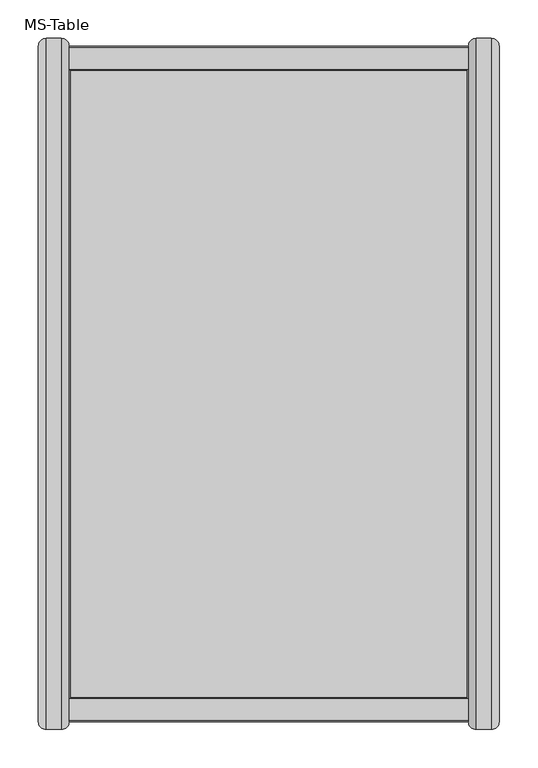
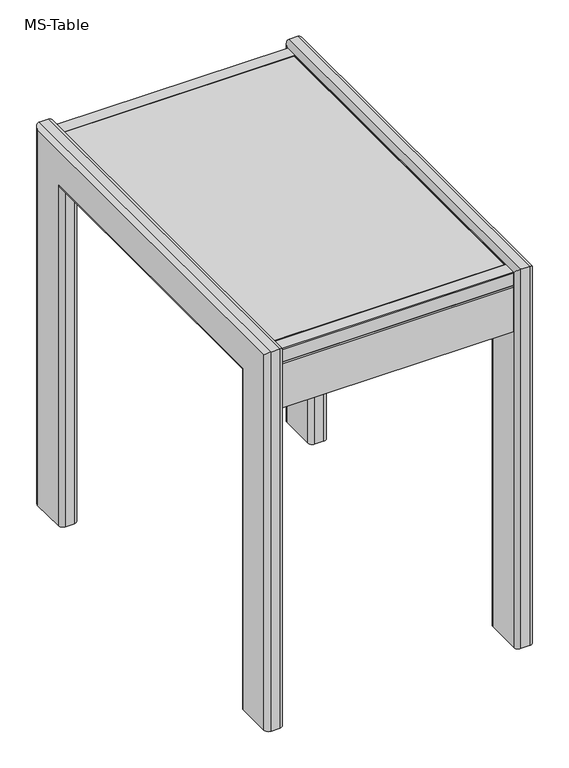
"""IFC4 building model written with IfcOpenShell, lengths in millimetres: furniture geometry, MS-Table : .Mesa nutricionista."""

import ifcopenshell
import ifcopenshell.guid

model = None  # the IFC model being written
_history = None  # IfcOwnerHistory: only IFC2X3 demands one
_inside = {}  # id of a spatial element -> (the spatial element, [elements in it])
_under = {}  # id of a project, library or spatial element -> (it, [spatial elements below it])
_declared = {}  # id of a project -> (the project, [libraries it declares])
_typed = {}  # id of a type object -> (the type object, [elements of that type])
_made_of = {}  # id of a material, layer set ... -> (it, [elements and type objects made of it])


def new_model(schema):
    """Start an empty IFC model of exactly this schema.

    Asked for "IFC4X3", IfcOpenShell would pick the latest addendum, in which some entities
    have other attributes; the version numbers below select the first issue.
    IFC2X3 requires an IfcOwnerHistory on every rooted entity: one is made here for all.
    """
    global model, _history
    if schema == "IFC4X3":
        model = ifcopenshell.file(schema_version=(4, 3, 0, 0))
    else:
        model = ifcopenshell.file(schema=schema)
    _inside.clear()
    _under.clear()
    _declared.clear()
    _typed.clear()
    _made_of.clear()
    _history = None
    if model.schema == "IFC2X3":
        org = make("IfcOrganization", Name="unknown")
        user = make(
            "IfcPersonAndOrganization",
            ThePerson=make("IfcPerson", FamilyName="unknown"),
            TheOrganization=org,
        )
        app = make(
            "IfcApplication",
            ApplicationDeveloper=org,
            Version="unknown",
            ApplicationFullName="unknown",
            ApplicationIdentifier="unknown",
        )
        _history = make(
            "IfcOwnerHistory",
            OwningUser=user,
            OwningApplication=app,
            ChangeAction="ADDED",
            CreationDate=0,
        )
    return model


def make(cls, **values):
    """One entity of the class cls with the attributes given. An attribute that is None is left unset."""
    return model.create_entity(
        cls, **{name: value for name, value in values.items() if value is not None}
    )


def rooted(cls, **values):
    """An entity with a GlobalId (a new one), such as an element, a storey or a relation."""
    return make(cls, GlobalId=ifcopenshell.guid.new(), OwnerHistory=_history, **values)


def si_unit(unit_type, name, prefix=None):
    """IfcSIUnit, for example si_unit("LENGTHUNIT", "METRE", prefix="MILLI")."""
    return make("IfcSIUnit", UnitType=unit_type, Prefix=prefix, Name=name)


def assignment(units):
    """IfcUnitAssignment: the units of a project."""
    return None if units is None else make("IfcUnitAssignment", Units=units)


def point(xyz):
    """IfcCartesianPoint."""
    return None if xyz is None else make("IfcCartesianPoint", Coordinates=xyz)


def direction(xyz):
    """IfcDirection."""
    return None if xyz is None else make("IfcDirection", DirectionRatios=xyz)


def frame(location, z_axis=None, x_axis=None):
    """IfcAxis2Placement3D, a coordinate frame: its origin and axes. An axis left out is left unset."""
    return make(
        "IfcAxis2Placement3D",
        Location=point(location),
        Axis=direction(z_axis),
        RefDirection=direction(x_axis),
    )


def origin():
    """The frame at (0, 0, 0) with its axes left unset."""
    return frame((0.0, 0.0, 0.0))


def place(relative_to, where):
    """IfcLocalPlacement: puts the frame where relative to a parent placement (None: the world)."""
    return make(
        "IfcLocalPlacement", PlacementRelTo=relative_to, RelativePlacement=where
    )


def context(
    kind, dimensions, precision=None, world=None, true_north=None, identifier=None
):
    """IfcGeometricRepresentationContext, for example the 3D "Model" context."""
    return make(
        "IfcGeometricRepresentationContext",
        ContextIdentifier=identifier,
        ContextType=kind,
        CoordinateSpaceDimension=dimensions,
        Precision=precision,
        WorldCoordinateSystem=world,
        TrueNorth=true_north,
    )


def project(units=None, contexts=None):
    """IfcProject with its units and contexts."""
    return rooted(
        "IfcProject",
        Name="project",
        RepresentationContexts=contexts,
        UnitsInContext=assignment(units),
    )


def spatial(cls, under=None, at=None, **own):
    """A site, building, storey or space (cls), placed at a placement, below another one or the project."""
    s = rooted(cls, ObjectPlacement=at, **own)
    if under is not None:
        _under.setdefault(under.id(), (under, []))[1].append(s)
    return s


def polyline(points):
    """IfcPolyline through the points."""
    return make("IfcPolyline", Points=[point(p) for p in points])


def circle_curve(where, radius):
    """IfcCircle in the frame where."""
    return make("IfcCircle", Position=where, Radius=radius)


def ellipse_curve(where, semi_axis1, semi_axis2):
    """IfcEllipse in the frame where."""
    return make(
        "IfcEllipse", Position=where, SemiAxis1=semi_axis1, SemiAxis2=semi_axis2
    )


def outline(outer, holes=None, kind="AREA"):
    """IfcArbitraryClosedProfileDef: a profile drawn as a closed curve; with holes, ...WithVoids."""
    if holes is None:
        return make("IfcArbitraryClosedProfileDef", ProfileType=kind, OuterCurve=outer)
    return make(
        "IfcArbitraryProfileDefWithVoids",
        ProfileType=kind,
        OuterCurve=outer,
        InnerCurves=holes,
    )


def extrude(swept, where, along, depth):
    """IfcExtrudedAreaSolid: the profile swept, set in the frame where, extruded along a direction by depth."""
    return make(
        "IfcExtrudedAreaSolid",
        SweptArea=swept,
        Position=where,
        ExtrudedDirection=direction(along),
        Depth=depth,
    )


def faces_of(points, faces, orient=None, outer=None):
    """IfcFace entities. A face is a list of loops; a loop is a list of indices into points, from 0.

    orient and outer hold one flag for each loop. By default every Orientation is true, the
    first loop of a face is its IfcFaceOuterBound and the others are IfcFaceBound.
    """
    made = []
    for i, loops in enumerate(faces):
        bounds = []
        for j, loop in enumerate(loops):
            is_outer = j == 0 if outer is None else outer[i][j]
            bounds.append(
                make(
                    "IfcFaceOuterBound" if is_outer else "IfcFaceBound",
                    Bound=make("IfcPolyLoop", Polygon=[points[k] for k in loop]),
                    Orientation=True if orient is None else orient[i][j],
                )
            )
        made.append(make("IfcFace", Bounds=bounds))
    return made


def faceted_brep(points, faces, orient=None, outer=None, voids=None):
    """IfcFacetedBrep: a solid bounded by flat faces; with voids (closed shells), ...WithVoids."""
    shared = [point(p) for p in points]
    hull = make("IfcClosedShell", CfsFaces=faces_of(shared, faces, orient, outer))
    if voids is None:
        return make("IfcFacetedBrep", Outer=hull)
    return make(
        "IfcFacetedBrepWithVoids",
        Outer=hull,
        Voids=[
            make(cls, CfsFaces=faces_of(shared, fs, o, b)) for cls, fs, o, b in voids
        ],
    )


def shape(context_of_items, identifier, shape_type, items):
    """IfcShapeRepresentation: the items that make up one representation, for example the "Body"."""
    return make(
        "IfcShapeRepresentation",
        ContextOfItems=context_of_items,
        RepresentationIdentifier=identifier,
        RepresentationType=shape_type,
        Items=items,
    )


def source(mapping_origin, context_of_items, identifier, shape_type, items):
    """IfcRepresentationMap: a shape defined once, which mapped items show again and again."""
    return make(
        "IfcRepresentationMap",
        MappingOrigin=mapping_origin,
        MappedRepresentation=shape(context_of_items, identifier, shape_type, items),
    )


def transform(
    local_origin,
    x_axis=None,
    y_axis=None,
    z_axis=None,
    scale=None,
    scale2=None,
    scale3=None,
    uniform=True,
):
    """IfcCartesianTransformationOperator3D, or its non-uniform kind. x_axis, y_axis, z_axis: its Axis1, 2, 3."""
    if uniform:
        return make(
            "IfcCartesianTransformationOperator3D",
            Axis1=direction(x_axis),
            Axis2=direction(y_axis),
            LocalOrigin=point(local_origin),
            Scale=scale,
            Axis3=direction(z_axis),
        )
    return make(
        "IfcCartesianTransformationOperator3DnonUniform",
        Axis1=direction(x_axis),
        Axis2=direction(y_axis),
        LocalOrigin=point(local_origin),
        Scale=scale,
        Axis3=direction(z_axis),
        Scale2=scale2,
        Scale3=scale3,
    )


def mapped(mapping_source, mapping_target):
    """IfcMappedItem: shows the shape of a source again, moved by a transform."""
    return make(
        "IfcMappedItem", MappingSource=mapping_source, MappingTarget=mapping_target
    )


def made_of(thing, what):
    """Note that an element or type object is made of a material, layer set ...; save() writes the relation."""
    if what is not None:
        _made_of.setdefault(what.id(), (what, []))[1].append(thing)
    return thing


def element(
    cls,
    number,
    at=None,
    inside=None,
    cuts=None,
    type_object=None,
    material=None,
    context=None,
    identifier="Body",
    shape_type=None,
    held_by="IfcProductDefinitionShape",
    body=None,
    shapes=None,
    **own,
):
    """One element of the class cls, such as IfcWall. Its Tag is "e" and its number.

    at: its placement. inside: the storey or other place that contains it. cuts: it is an
    opening in that element (IfcRelVoidsElement). A single representation is given by context,
    identifier, shape_type and body (its items); several are given by shapes. held_by: the class
    of the entity that holds the representations. save() writes the other relations.
    """
    e = rooted(cls, Tag="e%d" % number, ObjectPlacement=at, **own)
    if body is not None:
        shapes = [shape(context, identifier, shape_type, body)]
    if shapes is not None:
        e.Representation = make(held_by, Representations=shapes)
    if inside is not None:
        _inside.setdefault(inside.id(), (inside, []))[1].append(e)
    if cuts is not None:
        rooted(
            "IfcRelVoidsElement", RelatingBuildingElement=cuts, RelatedOpeningElement=e
        )
    if type_object is not None:
        _typed.setdefault(type_object.id(), (type_object, []))[1].append(e)
    return made_of(e, material)


def aggregate(whole, parts):
    """IfcRelAggregates: a whole, such as a stair, and the parts it consists of."""
    return rooted("IfcRelAggregates", RelatingObject=whole, RelatedObjects=parts)


def save(model, path):
    """Write the relations noted so far, then the file.

    IfcRelAggregates (storeys below a building ...), IfcRelContainedInSpatialStructure (elements
    in a storey), IfcRelDefinesByType, IfcRelAssociatesMaterial and IfcRelDeclares: one each for
    every whole, place, type object, material and project.
    """
    for whole, parts in _under.values():
        aggregate(whole, parts)
    for where, things in _inside.values():
        rooted(
            "IfcRelContainedInSpatialStructure",
            RelatedElements=things,
            RelatingStructure=where,
        )
    for kind, things in _typed.values():
        rooted("IfcRelDefinesByType", RelatedObjects=things, RelatingType=kind)
    for what, things in _made_of.values():
        rooted("IfcRelAssociatesMaterial", RelatedObjects=things, RelatingMaterial=what)
    for by, libraries in _declared.values():
        rooted("IfcRelDeclares", RelatingContext=by, RelatedDefinitions=libraries)
    model.write(path)


def plane_surface(at):
    """IfcPlane: the flat surface through the origin of the frame at, square to its z axis."""
    return make("IfcPlane", Position=at)


def cylinder_surface(at, radius):
    """IfcCylindricalSurface: all points at the distance radius from the z axis of the frame at."""
    return make("IfcCylindricalSurface", Position=at, Radius=radius)


def advanced_brep(points, edges, surfaces, faces):
    """IfcAdvancedBrep: a solid bounded by faces that lie on surfaces and meet in shared edges.

    An edge is (start, end): straight between two places in points (the first is 0);
    or (start, end, curve); or (start, end, curve, False) where it runs against its curve.
    A face is (place in surfaces, loops), or (place, loops, False) where it looks against
    its surface's normal. A loop lists edges by number (the first is 1), with a minus sign
    where the edge is run from its end to its start. The first loop is the outer one.
    """
    corners = [point(p) for p in points]
    vertices = [make("IfcVertexPoint", VertexGeometry=c) for c in corners]
    made = []
    for start, end, *more in edges:
        made.append(
            make(
                "IfcEdgeCurve",
                EdgeStart=vertices[start],
                EdgeEnd=vertices[end],
                EdgeGeometry=more[0] if more else make("IfcPolyline", Points=[corners[start], corners[end]]),
                SameSense=more[1] if len(more) > 1 else True,
            )
        )
    hull = []
    for where, loops, *sense in faces:
        bounds = []
        for j, loop in enumerate(loops):
            ring = [make("IfcOrientedEdge", EdgeElement=made[abs(k) - 1], Orientation=k > 0) for k in loop]
            bounds.append(
                make(
                    "IfcFaceOuterBound" if j == 0 else "IfcFaceBound",
                    Bound=make("IfcEdgeLoop", EdgeList=ring),
                    Orientation=True,
                )
            )
        hull.append(make("IfcAdvancedFace", Bounds=bounds, FaceSurface=surfaces[where], SameSense=sense[0] if sense else True))
    return make("IfcAdvancedBrep", Outer=make("IfcClosedShell", CfsFaces=hull))


def ms_table_5152e428(model_context):
    return source(origin(), model_context, "Body", "SolidModel", [
        extrude(outline(polyline([(-260.0, -123.8884232), (-270.0, -123.8884232), (-270.0, 676.1115768), (-260.0, 676.1115768), (-260.0, -123.8884232)])), frame((0.0, 0.0, 860.0), z_axis=(0.0, 0.0, 1.0), x_axis=(1.0, 0.0, 0.0)), (0.0, 0.0, 1.0), 20.0),
        extrude(outline(polyline([(250.0, 676.1115768), (250.0, -123.8884232), (240.0, -123.8884232), (240.0, 676.1115768), (250.0, 676.1115768)])), frame((0.0, 0.0, 860.0), z_axis=(0.0, 0.0, 1.0), x_axis=(1.0, 0.0, 0.0)), (0.0, 0.0, 1.0), 20.0),
        faceted_brep([(248.0, -131.8884232, 890.0), (248.0, 684.1115768, 890.0), (-268.0, 684.1115768, 890.0), (-268.0, -131.8884232, 890.0), (250.0, 686.1115768, 880.0), (250.0, -133.8884232, 880.0), (-270.0, -133.8884232, 880.0), (-270.0, 686.1115768, 880.0), (-270.0, 686.1115768, 888.0), (250.0, 686.1115768, 888.0), (-270.0, -133.8884232, 888.0), (250.0, -133.8884232, 888.0)], [[[0, 1, 2, 3]], [[4, 5, 6, 7]], [[4, 7, 8, 9]], [[7, 6, 10, 8]], [[6, 5, 11, 10]], [[5, 4, 9, 11]], [[9, 1, 0, 11]], [[1, 9, 8, 2]], [[2, 8, 10, 3]], [[11, 0, 3, 10]]]),
        faceted_brep([(250.0, -163.8884232, 860.0), (250.0, -158.8884232, 860.0), (250.0, -158.8884232, 855.0), (250.0, -163.8884232, 855.0), (250.0, -163.8884232, 750.0), (250.0, -123.8884232, 750.0), (250.0, -123.8884232, 880.0), (250.0, -133.8884232, 880.0), (250.0, -133.8884232, 888.0), (250.0, -133.8884232, 890.0), (250.0, -161.8884232, 890.0), (250.0, -163.8884232, 888.0), (-270.0, -133.8884232, 880.0), (-270.0, -123.8884232, 880.0), (-270.0, -123.8884232, 750.0), (-270.0, -163.8884232, 750.0), (-270.0, -163.8884232, 855.0), (-270.0, -158.8884232, 855.0), (-270.0, -158.8884232, 860.0), (-270.0, -163.8884232, 860.0), (-270.0, -163.8884232, 888.0), (-270.0, -161.8884232, 890.0), (-270.0, -133.8884232, 890.0), (-270.0, -133.8884232, 888.0)], [[[0, 1, 2, 3, 4, 5, 6, 7, 8, 9, 10, 11]], [[12, 13, 14, 15, 16, 17, 18, 19, 20, 21, 22, 23]], [[19, 0, 11, 20]], [[1, 0, 19, 18]], [[2, 1, 18, 17]], [[3, 2, 17, 16]], [[4, 3, 16, 15]], [[5, 4, 15, 14]], [[6, 5, 14, 13]], [[7, 6, 13, 12]], [[7, 12, 23, 22, 9, 8]], [[9, 22, 21, 10]], [[11, 10, 21, 20]]]),
        faceted_brep([(250.0, 686.1115768, 880.0), (250.0, 676.1115768, 880.0), (250.0, 676.1115768, 750.0), (250.0, 716.1115768, 750.0), (250.0, 716.1115768, 855.0), (250.0, 711.1115768, 855.0), (250.0, 711.1115768, 860.0), (250.0, 716.1115768, 860.0), (250.0, 716.1115768, 888.0), (250.0, 714.1115768, 890.0), (250.0, 686.1115768, 890.0), (250.0, 686.1115768, 888.0), (-270.0, 716.1115768, 860.0), (-270.0, 711.1115768, 860.0), (-270.0, 711.1115768, 855.0), (-270.0, 716.1115768, 855.0), (-270.0, 716.1115768, 750.0), (-270.0, 676.1115768, 750.0), (-270.0, 676.1115768, 880.0), (-270.0, 686.1115768, 880.0), (-270.0, 686.1115768, 888.0), (-270.0, 686.1115768, 890.0), (-270.0, 714.1115768, 890.0), (-270.0, 716.1115768, 888.0)], [[[0, 1, 2, 3, 4, 5, 6, 7, 8, 9, 10, 11]], [[12, 13, 14, 15, 16, 17, 18, 19, 20, 21, 22, 23]], [[21, 10, 9, 22]], [[10, 21, 20, 19, 0, 11]], [[1, 0, 19, 18]], [[2, 1, 18, 17]], [[3, 2, 17, 16]], [[4, 3, 16, 15]], [[5, 4, 15, 14]], [[6, 5, 14, 13]], [[7, 6, 13, 12]], [[7, 12, 23, 8]], [[9, 8, 23, 22]]]),
        advanced_brep(
        [(260.0, 726.1115768, 0.0), (280.0, 726.1115768, 0.0), (290.0, 716.1115768, 0.0), (290.0, 636.1115768, 0.0), (280.0, 626.1115768, 0.0), (260.0, 626.1115768, 0.0), (250.0, 636.1115768, 0.0), (250.0, 716.1115768, 0.0), (260.0, 726.1115768, 900.0), (280.0, 726.1115768, 900.0), (290.0, 716.1115768, 890.0), (290.0, -163.8884232, 890.0), (290.0, -163.8884232, 0.0), (290.0, -83.8884232, 0.0), (290.0, -83.8884232, 810.0), (290.0, 636.1115768, 810.0), (280.0, 626.1115768, 800.0), (260.0, 626.1115768, 800.0), (250.0, 636.1115768, 810.0), (250.0, -83.8884232, 810.0), (250.0, -83.8884232, 0.0), (250.0, -163.8884232, 0.0), (250.0, -163.8884232, 888.0), (250.0, -163.8884232, 890.0), (250.0, -161.8884232, 890.0), (250.0, -133.8884232, 890.0), (250.0, 686.1115768, 890.0), (250.0, 714.1115768, 890.0), (250.0, 716.1115768, 890.0), (250.0, 716.1115768, 888.0), (260.0, -173.8884232, 900.0), (280.0, -173.8884232, 900.0), (280.0, -73.8884232, 800.0), (260.0, -73.8884232, 800.0), (280.0, -173.8884232, 0.0), (260.0, -173.8884232, 0.0), (260.0, -73.8884232, 0.0), (280.0, -73.8884232, 0.0)],
        [
            (0, 1),
            (1, 2, circle_curve(frame((280.0, 716.1115768, 0.0), z_axis=(0.0, 0.0, -1.0), x_axis=(0.0, 1.0, 0.0)), 10.0)),
            (2, 3),
            (3, 4, circle_curve(frame((280.0, 636.1115768, 0.0), z_axis=(0.0, 0.0, -1.0), x_axis=(0.0, 1.0, 0.0)), 10.0)),
            (4, 5),
            (5, 6, circle_curve(frame((260.0, 636.1115768, 0.0), z_axis=(0.0, 0.0, -1.0), x_axis=(0.0, 1.0, 0.0)), 10.0)),
            (6, 7),
            (7, 0, circle_curve(frame((260.0, 716.1115768, 0.0), z_axis=(0.0, 0.0, -1.0), x_axis=(0.0, 1.0, 0.0)), 10.0)),
            (0, 8),
            (8, 9),
            (9, 1),
            (9, 10, ellipse_curve(frame((280.0, 716.1115768, 890.0), z_axis=(0.0, 0.7071067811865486, -0.7071067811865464), x_axis=(0.0, -0.7071067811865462, -0.7071067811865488)), 14.1421356, 10.0)),
            (10, 2),
            (10, 11),
            (11, 12),
            (12, 13),
            (13, 14),
            (14, 15),
            (15, 3),
            (15, 16, ellipse_curve(frame((280.0, 636.1115768, 810.0), z_axis=(0.0, 0.7071067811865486, -0.7071067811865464), x_axis=(0.0, -0.7071067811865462, -0.7071067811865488)), 14.1421356, 10.0)),
            (16, 4),
            (16, 17),
            (17, 5),
            (17, 18, ellipse_curve(frame((260.0, 636.1115768, 810.0), z_axis=(0.0, 0.7071067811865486, -0.7071067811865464), x_axis=(0.0, -0.7071067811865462, -0.7071067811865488)), 14.1421356, 10.0)),
            (18, 6),
            (18, 19),
            (19, 20),
            (20, 21),
            (21, 22),
            (22, 23),
            (23, 24),
            (24, 25),
            (25, 26),
            (26, 27),
            (27, 28),
            (28, 29),
            (29, 7),
            (28, 8, ellipse_curve(frame((260.0, 716.1115768, 890.0), z_axis=(0.0, 0.7071067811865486, -0.7071067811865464), x_axis=(0.0, -0.7071067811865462, -0.7071067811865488)), 14.1421356, 10.0)),
            (8, 30),
            (30, 31),
            (31, 9),
            (31, 11, ellipse_curve(frame((280.0, -163.8884232, 890.0), z_axis=(0.0, 0.7071067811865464, 0.7071067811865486), x_axis=(0.0, 0.7071067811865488, -0.7071067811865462)), 14.1421356, 10.0)),
            (14, 32, ellipse_curve(frame((280.0, -83.8884232, 810.0), z_axis=(0.0, 0.7071067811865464, 0.7071067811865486), x_axis=(0.0, 0.7071067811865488, -0.7071067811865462)), 14.1421356, 10.0)),
            (32, 16),
            (32, 33),
            (33, 17),
            (33, 19, ellipse_curve(frame((260.0, -83.8884232, 810.0), z_axis=(0.0, 0.7071067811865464, 0.7071067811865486), x_axis=(0.0, 0.7071067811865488, -0.7071067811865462)), 14.1421356, 10.0)),
            (23, 30, ellipse_curve(frame((260.0, -163.8884232, 890.0), z_axis=(0.0, 0.7071067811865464, 0.7071067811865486), x_axis=(0.0, 0.7071067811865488, -0.7071067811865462)), 14.1421356, 10.0)),
            (12, 34, circle_curve(frame((280.0, -163.8884232, 0.0), z_axis=(0.0, 0.0, -1.0), x_axis=(0.0, -1.0, 0.0)), 10.0)),
            (34, 35),
            (35, 21, circle_curve(frame((260.0, -163.8884232, 0.0), z_axis=(0.0, 0.0, -1.0), x_axis=(0.0, -1.0, 0.0)), 10.0)),
            (20, 36, circle_curve(frame((260.0, -83.8884232, 0.0), z_axis=(0.0, 0.0, -1.0), x_axis=(0.0, -1.0, 0.0)), 10.0)),
            (36, 37),
            (37, 13, circle_curve(frame((280.0, -83.8884232, 0.0), z_axis=(0.0, 0.0, -1.0), x_axis=(0.0, -1.0, 0.0)), 10.0)),
            (30, 35),
            (34, 31),
            (37, 32),
            (36, 33),
        ],
        [
            plane_surface(frame((290.0, 726.1115768, 0.0), z_axis=(0.0, 0.0, -1.0), x_axis=(1.0, 0.0, 0.0))),
            plane_surface(frame((260.0, 726.1115768, 0.0), z_axis=(0.0, 1.0, 0.0), x_axis=(0.0, 0.0, 1.0))),
            cylinder_surface(frame((280.0, 716.1115768, 0.0), z_axis=(0.0, 0.0, -1.0), x_axis=(0.0, 1.0, 0.0)), 10.0),
            plane_surface(frame((290.0, 716.1115768, 0.0), z_axis=(1.0, 0.0, 0.0), x_axis=(0.0, 0.0, 1.0))),
            cylinder_surface(frame((280.0, 636.1115768, 0.0), z_axis=(0.0, 0.0, -1.0), x_axis=(0.0, 1.0, 0.0)), 10.0),
            plane_surface(frame((280.0, 626.1115768, 0.0), z_axis=(0.0, -1.0, 0.0), x_axis=(0.0, 0.0, 1.0))),
            cylinder_surface(frame((260.0, 636.1115768, 0.0), z_axis=(0.0, 0.0, -1.0), x_axis=(0.0, 1.0, 0.0)), 10.0),
            plane_surface(frame((250.0, 636.1115768, 0.0), z_axis=(-1.0, 0.0, 0.0), x_axis=(0.0, 0.0, 1.0))),
            cylinder_surface(frame((260.0, 716.1115768, 0.0), z_axis=(0.0, 0.0, -1.0), x_axis=(0.0, 1.0, 0.0)), 10.0),
            plane_surface(frame((260.0, 726.1115768, 900.0), z_axis=(0.0, 0.0, 1.0), x_axis=(0.0, -1.0, 0.0))),
            cylinder_surface(frame((280.0, 726.1115768, 890.0), z_axis=(0.0, 1.0, 0.0), x_axis=(0.0, 0.0, 1.0)), 10.0),
            cylinder_surface(frame((280.0, 726.1115768, 810.0), z_axis=(0.0, 1.0, 0.0), x_axis=(0.0, 0.0, 1.0)), 10.0),
            plane_surface(frame((280.0, 626.1115768, 800.0), z_axis=(0.0, 0.0, -1.0), x_axis=(0.0, -1.0, 0.0))),
            cylinder_surface(frame((260.0, 726.1115768, 810.0), z_axis=(0.0, 1.0, 0.0), x_axis=(0.0, 0.0, 1.0)), 10.0),
            cylinder_surface(frame((260.0, 726.1115768, 890.0), z_axis=(0.0, 1.0, 0.0), x_axis=(0.0, 0.0, 1.0)), 10.0),
            plane_surface(frame((290.0, -173.8884232, 0.0), z_axis=(0.0, 0.0, -1.0), x_axis=(1.0, 0.0, 0.0))),
            plane_surface(frame((260.0, -173.8884232, 900.0), z_axis=(0.0, -1.0, 0.0), x_axis=(0.0, 0.0, -1.0))),
            cylinder_surface(frame((280.0, -163.8884232, 900.0), z_axis=(0.0, 0.0, 1.0), x_axis=(0.0, -1.0, 0.0)), 10.0),
            cylinder_surface(frame((280.0, -83.8884232, 900.0), z_axis=(0.0, 0.0, 1.0), x_axis=(0.0, -1.0, 0.0)), 10.0),
            plane_surface(frame((280.0, -73.8884232, 800.0), z_axis=(0.0, 1.0, 0.0), x_axis=(0.0, 0.0, -1.0))),
            cylinder_surface(frame((260.0, -83.8884232, 900.0), z_axis=(0.0, 0.0, 1.0), x_axis=(0.0, -1.0, 0.0)), 10.0),
            cylinder_surface(frame((260.0, -163.8884232, 900.0), z_axis=(0.0, 0.0, 1.0), x_axis=(0.0, -1.0, 0.0)), 10.0),
        ],
        [
            (0, [[1, 2, 3, 4, 5, 6, 7, 8]]),
            (1, [[-1, 9, 10, 11]]),
            (2, [[-2, -11, 12, 13]]),
            (3, [[-3, -13, 14, 15, 16, 17, 18, 19]]),
            (4, [[-4, -19, 20, 21]]),
            (5, [[-5, -21, 22, 23]]),
            (6, [[-6, -23, 24, 25]]),
            (7, [[-7, -25, 26, 27, 28, 29, 30, 31, 32, 33, 34, 35, 36, 37]]),
            (8, [[-8, -37, -36, 38, -9]]),
            (9, [[-10, 39, 40, 41]]),
            (10, [[-12, -41, 42, -14]]),
            (11, [[-18, 43, 44, -20]]),
            (12, [[-22, -44, 45, 46]]),
            (13, [[-24, -46, 47, -26]]),
            (14, [[-38, -35, -34, -33, -32, -31, 48, -39]]),
            (15, [[-16, 49, 50, 51, -28, 52, 53, 54]]),
            (16, [[-40, 55, -50, 56]]),
            (17, [[-15, -42, -56, -49]]),
            (18, [[-17, -54, 57, -43]]),
            (19, [[-45, -57, -53, 58]]),
            (20, [[-27, -47, -58, -52]]),
            (21, [[-48, -30, -29, -51, -55]]),
        ],
    ),
        advanced_brep(
        [(-280.0, -173.8884232, 0.0), (-300.0, -173.8884232, 0.0), (-310.0, -163.8884232, 0.0), (-310.0, -83.8884232, 0.0), (-300.0, -73.8884232, 0.0), (-280.0, -73.8884232, 0.0), (-270.0, -83.8884232, 0.0), (-270.0, -163.8884232, 0.0), (-280.0, -173.8884232, 900.0), (-300.0, -173.8884232, 900.0), (-310.0, -163.8884232, 890.0), (-310.0, 716.1115768, 890.0), (-310.0, 716.1115768, 0.0), (-310.0, 636.1115768, 0.0), (-310.0, 636.1115768, 810.0), (-310.0, -83.8884232, 810.0), (-300.0, -73.8884232, 800.0), (-280.0, -73.8884232, 800.0), (-270.0, -83.8884232, 810.0), (-270.0, 636.1115768, 810.0), (-270.0, 636.1115768, 0.0), (-270.0, 716.1115768, 0.0), (-270.0, 716.1115768, 888.0), (-270.0, 716.1115768, 890.0), (-270.0, 714.1115768, 890.0), (-270.0, 686.1115768, 890.0), (-270.0, -133.8884232, 890.0), (-270.0, -161.8884232, 890.0), (-270.0, -163.8884232, 890.0), (-270.0, -163.8884232, 888.0), (-280.0, 726.1115768, 900.0), (-300.0, 726.1115768, 900.0), (-300.0, 626.1115768, 800.0), (-280.0, 626.1115768, 800.0), (-300.0, 726.1115768, 0.0), (-280.0, 726.1115768, 0.0), (-280.0, 626.1115768, 0.0), (-300.0, 626.1115768, 0.0)],
        [
            (0, 1),
            (1, 2, circle_curve(frame((-300.0, -163.8884232, 0.0), z_axis=(0.0, 0.0, -1.0), x_axis=(0.0, -1.0, 0.0)), 10.0)),
            (2, 3),
            (3, 4, circle_curve(frame((-300.0, -83.8884232, 0.0), z_axis=(0.0, 0.0, -1.0), x_axis=(0.0, -1.0, 0.0)), 10.0)),
            (4, 5),
            (5, 6, circle_curve(frame((-280.0, -83.8884232, 0.0), z_axis=(0.0, 0.0, -1.0), x_axis=(0.0, -1.0, 0.0)), 10.0)),
            (6, 7),
            (7, 0, circle_curve(frame((-280.0, -163.8884232, 0.0), z_axis=(0.0, 0.0, -1.0), x_axis=(0.0, -1.0, 0.0)), 10.0)),
            (0, 8),
            (8, 9),
            (9, 1),
            (9, 10, ellipse_curve(frame((-300.0, -163.8884232, 890.0), z_axis=(0.0, -0.7071067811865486, -0.7071067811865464), x_axis=(0.0, 0.7071067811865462, -0.7071067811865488)), 14.1421356, 10.0)),
            (10, 2),
            (10, 11),
            (11, 12),
            (12, 13),
            (13, 14),
            (14, 15),
            (15, 3),
            (15, 16, ellipse_curve(frame((-300.0, -83.8884232, 810.0), z_axis=(0.0, -0.7071067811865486, -0.7071067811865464), x_axis=(0.0, 0.7071067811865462, -0.7071067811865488)), 14.1421356, 10.0)),
            (16, 4),
            (16, 17),
            (17, 5),
            (17, 18, ellipse_curve(frame((-280.0, -83.8884232, 810.0), z_axis=(0.0, -0.7071067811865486, -0.7071067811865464), x_axis=(0.0, 0.7071067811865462, -0.7071067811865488)), 14.1421356, 10.0)),
            (18, 6),
            (18, 19),
            (19, 20),
            (20, 21),
            (21, 22),
            (22, 23),
            (23, 24),
            (24, 25),
            (25, 26),
            (26, 27),
            (27, 28),
            (28, 29),
            (29, 7),
            (28, 8, ellipse_curve(frame((-280.0, -163.8884232, 890.0), z_axis=(0.0, -0.7071067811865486, -0.7071067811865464), x_axis=(0.0, 0.7071067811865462, -0.7071067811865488)), 14.1421356, 10.0)),
            (8, 30),
            (30, 31),
            (31, 9),
            (31, 11, ellipse_curve(frame((-300.0, 716.1115768, 890.0), z_axis=(0.0, -0.7071067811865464, 0.7071067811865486), x_axis=(0.0, -0.7071067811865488, -0.7071067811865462)), 14.1421356, 10.0)),
            (14, 32, ellipse_curve(frame((-300.0, 636.1115768, 810.0), z_axis=(0.0, -0.7071067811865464, 0.7071067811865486), x_axis=(0.0, -0.7071067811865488, -0.7071067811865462)), 14.1421356, 10.0)),
            (32, 16),
            (32, 33),
            (33, 17),
            (33, 19, ellipse_curve(frame((-280.0, 636.1115768, 810.0), z_axis=(0.0, -0.7071067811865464, 0.7071067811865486), x_axis=(0.0, -0.7071067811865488, -0.7071067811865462)), 14.1421356, 10.0)),
            (23, 30, ellipse_curve(frame((-280.0, 716.1115768, 890.0), z_axis=(0.0, -0.7071067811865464, 0.7071067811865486), x_axis=(0.0, -0.7071067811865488, -0.7071067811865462)), 14.1421356, 10.0)),
            (12, 34, circle_curve(frame((-300.0, 716.1115768, 0.0), z_axis=(0.0, 0.0, -1.0), x_axis=(0.0, 1.0, 0.0)), 10.0)),
            (34, 35),
            (35, 21, circle_curve(frame((-280.0, 716.1115768, 0.0), z_axis=(0.0, 0.0, -1.0), x_axis=(0.0, 1.0, 0.0)), 10.0)),
            (20, 36, circle_curve(frame((-280.0, 636.1115768, 0.0), z_axis=(0.0, 0.0, -1.0), x_axis=(0.0, 1.0, 0.0)), 10.0)),
            (36, 37),
            (37, 13, circle_curve(frame((-300.0, 636.1115768, 0.0), z_axis=(0.0, 0.0, -1.0), x_axis=(0.0, 1.0, 0.0)), 10.0)),
            (30, 35),
            (34, 31),
            (37, 32),
            (36, 33),
        ],
        [
            plane_surface(frame((-310.0, -173.8884232, 0.0), z_axis=(0.0, 0.0, -1.0), x_axis=(1.0, 0.0, 0.0))),
            plane_surface(frame((-280.0, -173.8884232, 0.0), z_axis=(0.0, -1.0, 0.0), x_axis=(0.0, 0.0, 1.0))),
            cylinder_surface(frame((-300.0, -163.8884232, 0.0), z_axis=(0.0, 0.0, -1.0), x_axis=(0.0, -1.0, 0.0)), 10.0),
            plane_surface(frame((-310.0, -163.8884232, 0.0), z_axis=(-1.0, 0.0, 0.0), x_axis=(0.0, 0.0, 1.0))),
            cylinder_surface(frame((-300.0, -83.8884232, 0.0), z_axis=(0.0, 0.0, -1.0), x_axis=(0.0, -1.0, 0.0)), 10.0),
            plane_surface(frame((-300.0, -73.8884232, 0.0), z_axis=(0.0, 1.0, 0.0), x_axis=(0.0, 0.0, 1.0))),
            cylinder_surface(frame((-280.0, -83.8884232, 0.0), z_axis=(0.0, 0.0, -1.0), x_axis=(0.0, -1.0, 0.0)), 10.0),
            plane_surface(frame((-270.0, -83.8884232, 0.0), z_axis=(1.0, 0.0, 0.0), x_axis=(0.0, 0.0, 1.0))),
            cylinder_surface(frame((-280.0, -163.8884232, 0.0), z_axis=(0.0, 0.0, -1.0), x_axis=(0.0, -1.0, 0.0)), 10.0),
            plane_surface(frame((-280.0, -173.8884232, 900.0), z_axis=(0.0, 0.0, 1.0), x_axis=(0.0, 1.0, 0.0))),
            cylinder_surface(frame((-300.0, -173.8884232, 890.0), z_axis=(0.0, -1.0, 0.0), x_axis=(0.0, 0.0, 1.0)), 10.0),
            cylinder_surface(frame((-300.0, -173.8884232, 810.0), z_axis=(0.0, -1.0, 0.0), x_axis=(0.0, 0.0, 1.0)), 10.0),
            plane_surface(frame((-300.0, -73.8884232, 800.0), z_axis=(0.0, 0.0, -1.0), x_axis=(0.0, 1.0, 0.0))),
            cylinder_surface(frame((-280.0, -173.8884232, 810.0), z_axis=(0.0, -1.0, 0.0), x_axis=(0.0, 0.0, 1.0)), 10.0),
            cylinder_surface(frame((-280.0, -173.8884232, 890.0), z_axis=(0.0, -1.0, 0.0), x_axis=(0.0, 0.0, 1.0)), 10.0),
            plane_surface(frame((-310.0, 726.1115768, 0.0), z_axis=(0.0, 0.0, -1.0), x_axis=(1.0, 0.0, 0.0))),
            plane_surface(frame((-280.0, 726.1115768, 900.0), z_axis=(0.0, 1.0, 0.0), x_axis=(0.0, 0.0, -1.0))),
            cylinder_surface(frame((-300.0, 716.1115768, 900.0), z_axis=(0.0, 0.0, 1.0), x_axis=(0.0, 1.0, 0.0)), 10.0),
            cylinder_surface(frame((-300.0, 636.1115768, 900.0), z_axis=(0.0, 0.0, 1.0), x_axis=(0.0, 1.0, 0.0)), 10.0),
            plane_surface(frame((-300.0, 626.1115768, 800.0), z_axis=(0.0, -1.0, 0.0), x_axis=(0.0, 0.0, -1.0))),
            cylinder_surface(frame((-280.0, 636.1115768, 900.0), z_axis=(0.0, 0.0, 1.0), x_axis=(0.0, 1.0, 0.0)), 10.0),
            cylinder_surface(frame((-280.0, 716.1115768, 900.0), z_axis=(0.0, 0.0, 1.0), x_axis=(0.0, 1.0, 0.0)), 10.0),
        ],
        [
            (0, [[1, 2, 3, 4, 5, 6, 7, 8]]),
            (1, [[-1, 9, 10, 11]]),
            (2, [[-2, -11, 12, 13]]),
            (3, [[-3, -13, 14, 15, 16, 17, 18, 19]]),
            (4, [[-4, -19, 20, 21]]),
            (5, [[-5, -21, 22, 23]]),
            (6, [[-6, -23, 24, 25]]),
            (7, [[-7, -25, 26, 27, 28, 29, 30, 31, 32, 33, 34, 35, 36, 37]]),
            (8, [[-8, -37, -36, 38, -9]]),
            (9, [[-10, 39, 40, 41]]),
            (10, [[-12, -41, 42, -14]]),
            (11, [[-18, 43, 44, -20]]),
            (12, [[-22, -44, 45, 46]]),
            (13, [[-24, -46, 47, -26]]),
            (14, [[-38, -35, -34, -33, -32, -31, 48, -39]]),
            (15, [[-16, 49, 50, 51, -28, 52, 53, 54]]),
            (16, [[-40, 55, -50, 56]]),
            (17, [[-15, -42, -56, -49]]),
            (18, [[-17, -54, 57, -43]]),
            (19, [[-45, -57, -53, 58]]),
            (20, [[-27, -47, -58, -52]]),
            (21, [[-48, -30, -29, -51, -55]]),
        ],
    ),
    ])


if __name__ == "__main__":
    model = new_model("IFC4")
    model_context = context("Model", 3, world=origin())
    ifc_project = project(units=[si_unit("LENGTHUNIT", "METRE", prefix="MILLI")], contexts=[model_context])
    site = spatial("IfcSite", under=ifc_project)
    building = spatial("IfcBuilding", under=site)
    placement = place(None, origin())
    ms_table_shape = ms_table_5152e428(model_context)
    element("IfcFurniture", 1, ObjectType="MS-Table : .Mesa nutricionista", at=placement, inside=building, context=model_context, shape_type="MappedRepresentation", body=[
        mapped(ms_table_shape, transform((0.0, 0.0, 0.0), x_axis=(1.0, 0.0, 0.0), y_axis=(0.0, 1.0, 0.0), z_axis=(0.0, 0.0, 1.0))),
    ])
    save(model, "model.ifc")
